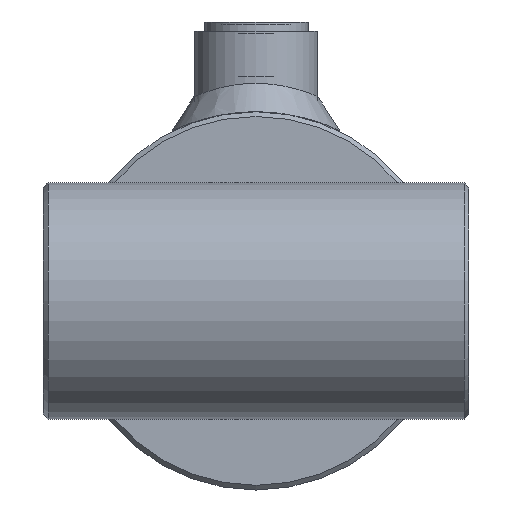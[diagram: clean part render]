
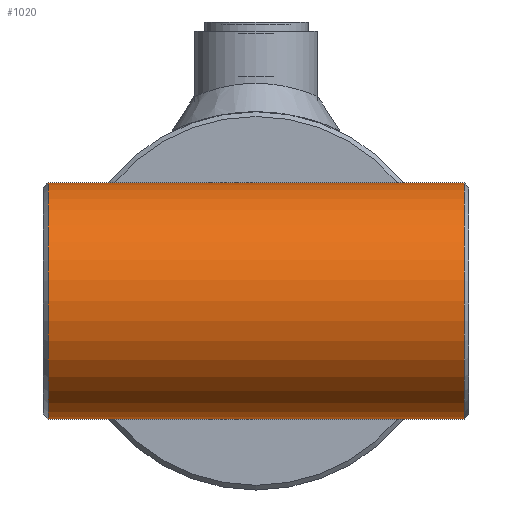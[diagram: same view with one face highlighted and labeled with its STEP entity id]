
A CAD part, left-side view. The second image highlights one B-rep face of the part: STEP entity #1020.
In plain terms, the highlighted cylindrical face has radius 25 mm (diameter 50 mm), a full revolution.
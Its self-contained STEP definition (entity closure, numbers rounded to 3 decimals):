
#1020 = ADVANCED_FACE( '', ( #1884, #1885 ), #1886, .T. );
#1884 = FACE_OUTER_BOUND( '', #6870, .T. );
#1885 = FACE_OUTER_BOUND( '', #6871, .T. );
#1886 = CYLINDRICAL_SURFACE( '', #6872, 25. );
#6870 = EDGE_LOOP( '', ( #9320 ) );
#6871 = EDGE_LOOP( '', ( #9321 ) );
#6872 = AXIS2_PLACEMENT_3D( '', #9322, #9323, #9324 );
#9320 = ORIENTED_EDGE( '', *, *, #9955, .T. );
#9321 = ORIENTED_EDGE( '', *, *, #10253, .T. );
#9322 = CARTESIAN_POINT( '', ( 0., -45., 0. ) );
#9323 = DIRECTION( '', ( 0., -1., 0. ) );
#9324 = DIRECTION( '', ( 0., 0., 1. ) );
#9955 = EDGE_CURVE( '', #10679, #10679, #10680, .F. );
#10253 = EDGE_CURVE( '', #11130, #11130, #11131, .T. );
#10679 = VERTEX_POINT( '', #11731 );
#10680 = CIRCLE( '', #11732, 25. );
#11130 = VERTEX_POINT( '', #13576 );
#11131 = CIRCLE( '', #13577, 25. );
#11731 = CARTESIAN_POINT( '', ( 0., 44., 25. ) );
#11732 = AXIS2_PLACEMENT_3D( '', #14002, #14003, #14004 );
#13576 = CARTESIAN_POINT( '', ( 0., -44., 25. ) );
#13577 = AXIS2_PLACEMENT_3D( '', #14345, #14346, #14347 );
#14002 = CARTESIAN_POINT( '', ( 0., 44., 0. ) );
#14003 = DIRECTION( '', ( 0., 1., 0. ) );
#14004 = DIRECTION( '', ( 0., 0., 1. ) );
#14345 = CARTESIAN_POINT( '', ( 0., -44., 0. ) );
#14346 = DIRECTION( '', ( 0., 1., 0. ) );
#14347 = DIRECTION( '', ( 0., 0., 1. ) );
